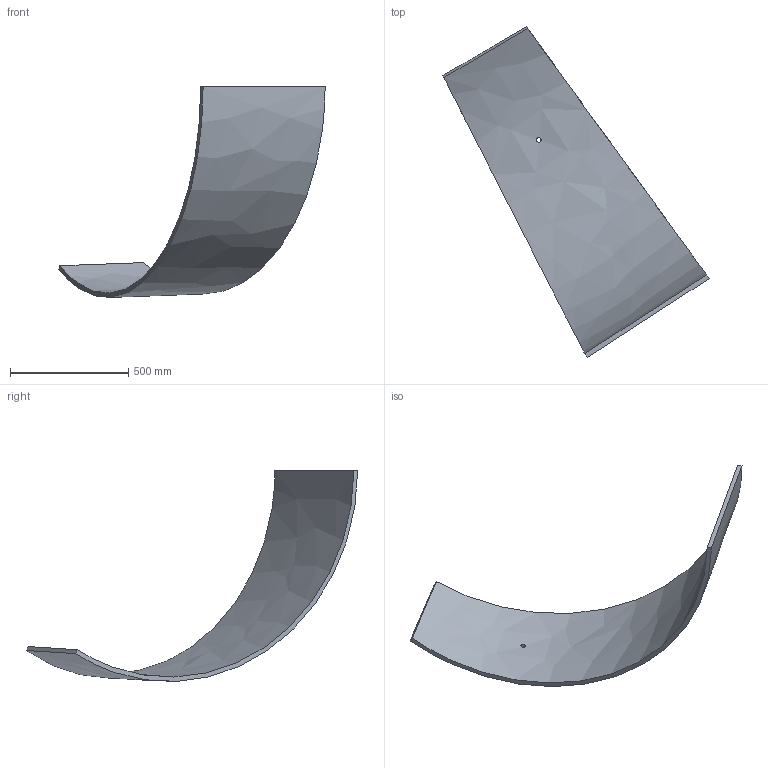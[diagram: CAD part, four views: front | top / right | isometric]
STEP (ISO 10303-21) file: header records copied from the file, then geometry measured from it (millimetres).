
FILE_DESCRIPTION (( 'STEP AP214' ), '1' );
FILE_NAME ('Section 10-A.STEP', '2025-01-09T19:43:27', ( '' ), ( '' ), 'SwSTEP 2.0', 'SolidWorks 2024', '' );
FILE_SCHEMA (( 'AUTOMOTIVE_DESIGN' ));
Length unit declared in the file: inch
Products named in the file (1): Section 10-A
Bounding box: 1127.01 x 1402.34 x 892.18 mm (x, y, z)
Volume: 18663399.1 mm3; surface area: 2049809.8 mm2
Topology: 1 solids, 1 shells, 7 faces, 15 edges, 10 vertices
Faces by surface type: bspline 6, cylinder 1
Full cylindrical faces by diameter (mm): 19.447 x1
Entity records: 521 total; most frequent: CARTESIAN_POINT 384, ORIENTED_EDGE 28, B_SPLINE_CURVE_WITH_KNOTS 14, EDGE_CURVE 14, EDGE_LOOP 10, VERTEX_POINT 10, FACE_OUTER_BOUND 8, ADVANCED_FACE 7
